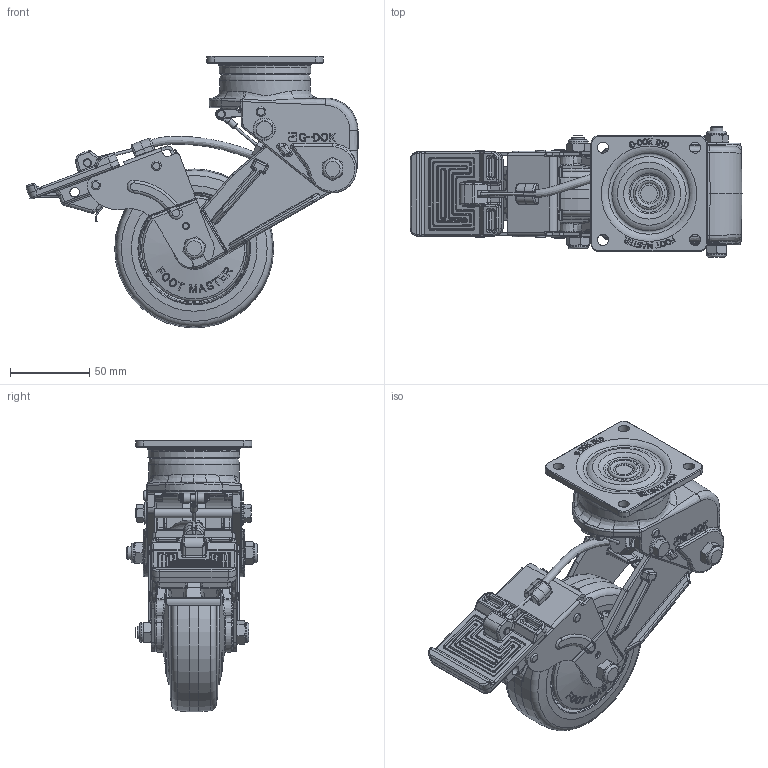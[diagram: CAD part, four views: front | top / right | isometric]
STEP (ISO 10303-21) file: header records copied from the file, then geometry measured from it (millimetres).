
FILE_DESCRIPTION(/* description */ (''),/* implementation_level */ '2;1');
FILE_NAME(/* name */ 'Z:\1.기술연구소\2.연구개발 진행중\25.충격흡수식_BBB\JYH\GDS-100-BB\2020년도\3.도면\1.3D\STEP-FILE\홈페이지용 3D\내부화 최종\GDSB-100-BSF-LUD.stp',/* time_stamp */ '2021-10-08T19:09:43+09:00',/* author */ ('admin'),/* organization */ (''),/* preprocessor_version */ 'ST-DEVELOPER v18.1',/* originating_system */ 'Autodesk Inventor 2021',/* authorisation */ '');
FILE_SCHEMA (('AUTOMOTIVE_DESIGN { 1 0 10303 214 3 1 1 }'));
Products named in the file (1): GDSB-100-BSF-LUD
Bounding box: 208.83 x 82 x 171 mm (x, y, z)
Volume: 437065.4 mm3; surface area: 169515.3 mm2
Topology: 1 solids, 2 shells, 4264 faces, 10625 edges, 6424 vertices
Faces by surface type: plane 1433, bspline 1272, cylinder 1039, torus 253, cone 215, sphere 52
Full cylindrical faces by diameter (mm): 2 x2, 2.5 x1, 2.9 x4, 3 x3, 3.1 x4, 3.2 x2, 4 x4, 4.122 x2, 4.2 x7, 4.4 x2, 4.5 x2, 4.8 x2, 5 x4, 5.241 x4, 6 x6, 6.2 x2, 6.723 x1, 7 x4, 7.4 x1, 7.95 x5, 8 x2, 8.2 x2, 9.95 x1, 10.2 x4, 10.7 x2, 11.6 x2, 12.5 x4, 14 x2, 20 x1, 39 x1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
Entity records: 166226 total; most frequent: CARTESIAN_POINT 66120, ORIENTED_EDGE 21078, DIRECTION 18577, EDGE_CURVE 10539, AXIS2_PLACEMENT_3D 7100, VERTEX_POINT 6424, EDGE_LOOP 4498, LINE 4377
